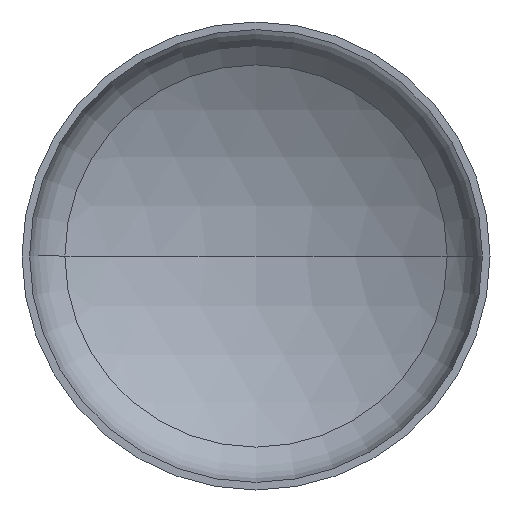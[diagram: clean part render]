
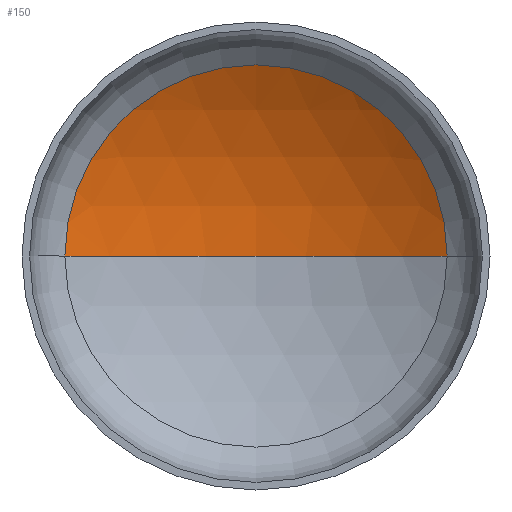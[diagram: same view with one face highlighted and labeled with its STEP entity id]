
A CAD part, front view. The second image highlights one B-rep face of the part: STEP entity #150.
In plain terms, the highlighted spherical face has radius 3040 mm.
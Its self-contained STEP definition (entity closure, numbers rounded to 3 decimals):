
#10 = EDGE_LOOP ( 'NONE', ( #137, #109, #101 ) ) ;
#25 = VERTEX_POINT ( 'NONE', #355 ) ;
#41 = AXIS2_PLACEMENT_3D ( 'NONE', #183, #381, #393 ) ;
#43 = DIRECTION ( 'NONE',  ( 1., 0., 0. ) ) ;
#45 = AXIS2_PLACEMENT_3D ( 'NONE', #168, #125, #136 ) ;
#53 = AXIS2_PLACEMENT_3D ( 'NONE', #173, #172, #43 ) ;
#62 = AXIS2_PLACEMENT_3D ( 'NONE', #193, #209, #194 ) ;
#71 = VERTEX_POINT ( 'NONE', #289 ) ;
#75 = SPHERICAL_SURFACE ( 'NONE', #62, 3040. ) ;
#101 = ORIENTED_EDGE ( 'NONE', *, *, #222, .T. ) ;
#109 = ORIENTED_EDGE ( 'NONE', *, *, #241, .T. ) ;
#125 = DIRECTION ( 'NONE',  ( 0., 0., 1. ) ) ;
#136 = DIRECTION ( 'NONE',  ( 1., 0., 0. ) ) ;
#137 = ORIENTED_EDGE ( 'NONE', *, *, #253, .F. ) ;
#148 = VERTEX_POINT ( 'NONE', #217 ) ;
#150 = ADVANCED_FACE ( 'NONE', ( #367 ), #75, .F. ) ;
#168 = CARTESIAN_POINT ( 'NONE',  ( 0., -1991.165, 0. ) ) ;
#172 = DIRECTION ( 'NONE',  ( 0., -1., 0. ) ) ;
#173 = CARTESIAN_POINT ( 'NONE',  ( 0., 623.068, 0. ) ) ;
#183 = CARTESIAN_POINT ( 'NONE',  ( 0., -1991.165, 0. ) ) ;
#193 = CARTESIAN_POINT ( 'NONE',  ( 0., -1991.165, 0. ) ) ;
#194 = DIRECTION ( 'NONE',  ( -1., 0., 0. ) ) ;
#209 = DIRECTION ( 'NONE',  ( 0., 0., -1. ) ) ;
#217 = CARTESIAN_POINT ( 'NONE',  ( 0., 1048.835, 0. ) ) ;
#222 = EDGE_CURVE ( 'NONE', #25, #71, #249, .T. ) ;
#241 = EDGE_CURVE ( 'NONE', #148, #25, #404, .T. ) ;
#242 = CIRCLE ( 'NONE', #45, 3040. ) ;
#249 = CIRCLE ( 'NONE', #53, 1551.576 ) ;
#253 = EDGE_CURVE ( 'NONE', #148, #71, #242, .T. ) ;
#289 = CARTESIAN_POINT ( 'NONE',  ( -1551.576, 623.068, 0. ) ) ;
#355 = CARTESIAN_POINT ( 'NONE',  ( 1551.576, 623.068, 0. ) ) ;
#367 = FACE_OUTER_BOUND ( 'NONE', #10, .T. ) ;
#381 = DIRECTION ( 'NONE',  ( 0., 0., -1. ) ) ;
#393 = DIRECTION ( 'NONE',  ( -1., 0., 0. ) ) ;
#404 = CIRCLE ( 'NONE', #41, 3040. ) ;
